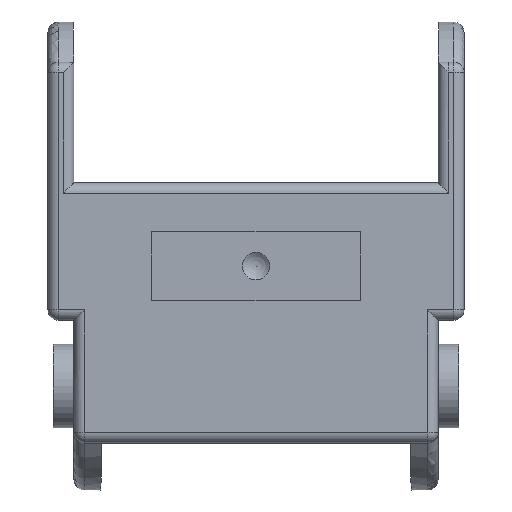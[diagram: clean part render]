
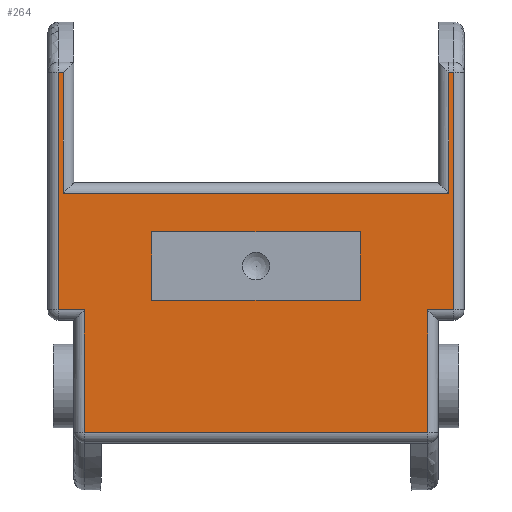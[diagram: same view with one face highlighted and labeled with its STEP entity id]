
A CAD part, top view. The second image highlights one B-rep face of the part: STEP entity #264.
In plain terms, the highlighted planar face has unit normal (0, 0, 1).
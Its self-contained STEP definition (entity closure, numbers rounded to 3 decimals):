
#264=ADVANCED_FACE('\X2\9762\X0\1',(#366,#367),#332,.T.);
#332=PLANE('',#1626);
#366=FACE_BOUND('',#429,.T.);
#367=FACE_BOUND('',#430,.T.);
#429=EDGE_LOOP('',(#725,#726,#727,#728));
#430=EDGE_LOOP('',(#729,#730,#731,#732,#733,#734,#735,#736,#737,#738,#739,
#740));
#725=ORIENTED_EDGE('',*,*,#1208,.F.);
#726=ORIENTED_EDGE('',*,*,#1209,.F.);
#727=ORIENTED_EDGE('',*,*,#1210,.F.);
#728=ORIENTED_EDGE('',*,*,#1211,.F.);
#729=ORIENTED_EDGE('',*,*,#1212,.T.);
#730=ORIENTED_EDGE('',*,*,#1213,.T.);
#731=ORIENTED_EDGE('',*,*,#1214,.T.);
#732=ORIENTED_EDGE('',*,*,#1215,.T.);
#733=ORIENTED_EDGE('',*,*,#1216,.F.);
#734=ORIENTED_EDGE('',*,*,#1217,.F.);
#735=ORIENTED_EDGE('',*,*,#1218,.T.);
#736=ORIENTED_EDGE('',*,*,#1178,.T.);
#737=ORIENTED_EDGE('',*,*,#1168,.T.);
#738=ORIENTED_EDGE('',*,*,#1166,.T.);
#739=ORIENTED_EDGE('',*,*,#1165,.T.);
#740=ORIENTED_EDGE('',*,*,#1219,.T.);
#1003=VERTEX_POINT('',#2281);
#1007=VERTEX_POINT('',#2292);
#1019=VERTEX_POINT('',#2335);
#1020=VERTEX_POINT('',#2341);
#1026=VERTEX_POINT('',#2380);
#1046=VERTEX_POINT('',#2450);
#1047=VERTEX_POINT('',#2451);
#1048=VERTEX_POINT('',#2453);
#1049=VERTEX_POINT('',#2455);
#1050=VERTEX_POINT('',#2458);
#1051=VERTEX_POINT('',#2459);
#1052=VERTEX_POINT('',#2461);
#1053=VERTEX_POINT('',#2463);
#1054=VERTEX_POINT('',#2465);
#1055=VERTEX_POINT('',#2467);
#1056=VERTEX_POINT('',#2469);
#1165=EDGE_CURVE('',#1003,#1019,#1345,.T.);
#1166=EDGE_CURVE('',#1007,#1003,#1346,.T.);
#1168=EDGE_CURVE('',#1020,#1007,#1347,.T.);
#1178=EDGE_CURVE('',#1026,#1020,#1352,.T.);
#1208=EDGE_CURVE('',#1046,#1047,#1370,.T.);
#1209=EDGE_CURVE('',#1048,#1046,#1371,.T.);
#1210=EDGE_CURVE('',#1049,#1048,#1372,.T.);
#1211=EDGE_CURVE('',#1047,#1049,#1373,.T.);
#1212=EDGE_CURVE('',#1050,#1051,#1374,.T.);
#1213=EDGE_CURVE('',#1051,#1052,#1375,.T.);
#1214=EDGE_CURVE('',#1052,#1053,#1376,.T.);
#1215=EDGE_CURVE('',#1053,#1054,#1377,.T.);
#1216=EDGE_CURVE('',#1055,#1054,#1378,.T.);
#1217=EDGE_CURVE('',#1056,#1055,#1379,.T.);
#1218=EDGE_CURVE('',#1056,#1026,#1380,.T.);
#1219=EDGE_CURVE('',#1019,#1050,#1381,.T.);
#1345=LINE('',#2336,#1453);
#1346=LINE('',#2338,#1454);
#1347=LINE('',#2342,#1455);
#1352=LINE('',#2383,#1460);
#1370=LINE('',#2449,#1478);
#1371=LINE('',#2452,#1479);
#1372=LINE('',#2454,#1480);
#1373=LINE('',#2456,#1481);
#1374=LINE('',#2457,#1482);
#1375=LINE('',#2460,#1483);
#1376=LINE('',#2462,#1484);
#1377=LINE('',#2464,#1485);
#1378=LINE('',#2466,#1486);
#1379=LINE('',#2468,#1487);
#1380=LINE('',#2470,#1488);
#1381=LINE('',#2471,#1489);
#1453=VECTOR('',#1851,1.);
#1454=VECTOR('',#1854,1.);
#1455=VECTOR('',#1859,1.);
#1460=VECTOR('',#1880,1.);
#1478=VECTOR('',#1940,1.);
#1479=VECTOR('',#1941,1.);
#1480=VECTOR('',#1942,1.);
#1481=VECTOR('',#1943,1.);
#1482=VECTOR('',#1944,1.);
#1483=VECTOR('',#1945,1.);
#1484=VECTOR('',#1946,1.);
#1485=VECTOR('',#1947,1.);
#1486=VECTOR('',#1948,1.);
#1487=VECTOR('',#1949,1.);
#1488=VECTOR('',#1950,1.);
#1489=VECTOR('',#1951,1.);
#1626=AXIS2_PLACEMENT_3D('',#2472,#1952,#1953);
#1851=DIRECTION('',(-1.,0.,0.));
#1854=DIRECTION('',(0.,1.,0.));
#1859=DIRECTION('',(1.,0.,0.));
#1880=DIRECTION('',(0.,1.,0.));
#1940=DIRECTION('',(0.,1.,0.));
#1941=DIRECTION('',(1.,0.,0.));
#1942=DIRECTION('',(0.,-1.,0.));
#1943=DIRECTION('',(-1.,0.,0.));
#1944=DIRECTION('',(-1.,0.,0.));
#1945=DIRECTION('',(0.,1.,0.));
#1946=DIRECTION('',(-1.,0.,0.));
#1947=DIRECTION('',(0.,-1.,0.));
#1948=DIRECTION('',(-1.,0.,0.));
#1949=DIRECTION('',(0.,1.,0.));
#1950=DIRECTION('',(1.,0.,0.));
#1951=DIRECTION('',(0.,-1.,0.));
#1952=DIRECTION('',(0.,0.,1.));
#1953=DIRECTION('',(-1.,0.,0.));
#2281=CARTESIAN_POINT('',(19.,42.606,1.));
#2292=CARTESIAN_POINT('',(19.,19.8,1.));
#2335=CARTESIAN_POINT('',(18.509,42.606,1.));
#2336=CARTESIAN_POINT('',(20.,42.606,1.));
#2338=CARTESIAN_POINT('',(19.,12.5,1.));
#2341=CARTESIAN_POINT('',(16.5,19.8,1.));
#2342=CARTESIAN_POINT('',(20.,19.8,1.));
#2380=CARTESIAN_POINT('',(16.5,8.,1.));
#2383=CARTESIAN_POINT('',(16.5,12.5,1.));
#2449=CARTESIAN_POINT('',(10.,16.4,1.));
#2450=CARTESIAN_POINT('',(10.,20.7,1.));
#2451=CARTESIAN_POINT('',(10.,27.306,1.));
#2452=CARTESIAN_POINT('',(20.,20.7,1.));
#2453=CARTESIAN_POINT('',(-10.,20.7,1.));
#2454=CARTESIAN_POINT('',(-10.,16.4,1.));
#2455=CARTESIAN_POINT('',(-10.,27.306,1.));
#2456=CARTESIAN_POINT('',(20.,27.306,1.));
#2457=CARTESIAN_POINT('',(-17.5,31.,1.));
#2458=CARTESIAN_POINT('',(18.509,31.,1.));
#2459=CARTESIAN_POINT('',(-18.509,31.,1.));
#2460=CARTESIAN_POINT('',(-18.509,42.606,1.));
#2461=CARTESIAN_POINT('',(-18.509,42.606,1.));
#2462=CARTESIAN_POINT('',(-20.,42.606,1.));
#2463=CARTESIAN_POINT('',(-19.,42.606,1.));
#2464=CARTESIAN_POINT('',(-19.,12.5,1.));
#2465=CARTESIAN_POINT('',(-19.,19.8,1.));
#2466=CARTESIAN_POINT('',(-20.,19.8,1.));
#2467=CARTESIAN_POINT('',(-16.5,19.8,1.));
#2468=CARTESIAN_POINT('',(-16.5,12.5,1.));
#2469=CARTESIAN_POINT('',(-16.5,8.,1.));
#2470=CARTESIAN_POINT('',(17.5,8.,1.));
#2471=CARTESIAN_POINT('',(18.509,32.,1.));
#2472=CARTESIAN_POINT('',(20.,12.5,1.));
